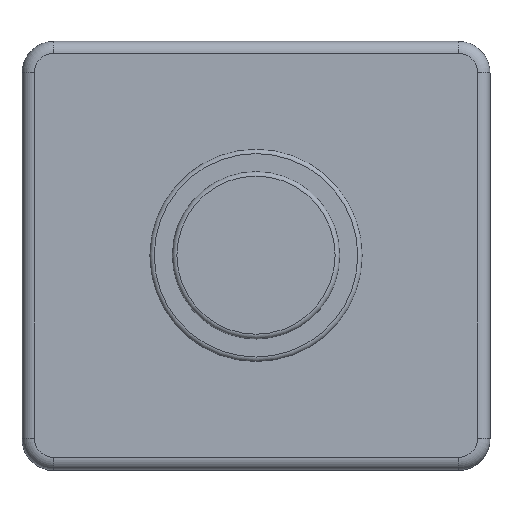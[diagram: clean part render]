
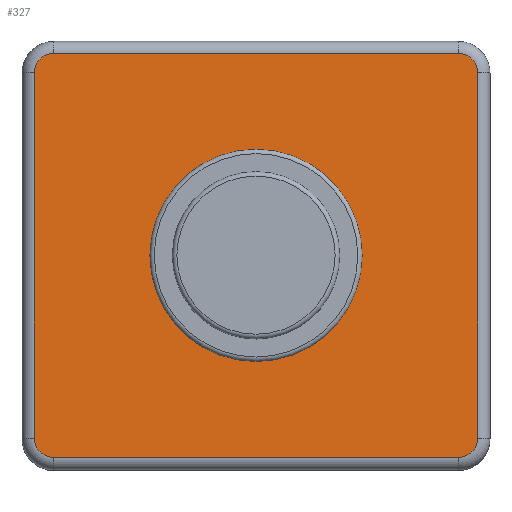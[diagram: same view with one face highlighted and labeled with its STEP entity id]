
A CAD part, top view. The second image highlights one B-rep face of the part: STEP entity #327.
In plain terms, the highlighted planar face has unit normal (0, 0.028, 1).
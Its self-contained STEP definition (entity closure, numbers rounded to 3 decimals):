
#15=FACE_BOUND('',#69,.T.);
#19=PLANE('',#380);
#46=FACE_OUTER_BOUND('',#68,.T.);
#68=EDGE_LOOP('',(#262,#263,#264,#265,#266,#267,#268,#269));
#69=EDGE_LOOP('',(#270));
#81=LINE('',#518,#99);
#82=LINE('',#529,#100);
#84=LINE('',#541,#102);
#86=LINE('',#553,#104);
#99=VECTOR('',#406,10.);
#100=VECTOR('',#419,10.);
#102=VECTOR('',#433,10.);
#104=VECTOR('',#447,10.);
#119=CIRCLE('',#356,1.266);
#123=CIRCLE('',#362,1.266);
#127=CIRCLE('',#368,1.266);
#130=CIRCLE('',#373,1.266);
#133=CIRCLE('',#381,6.911);
#140=VERTEX_POINT('',#511);
#143=VERTEX_POINT('',#516);
#145=VERTEX_POINT('',#521);
#147=VERTEX_POINT('',#527);
#149=VERTEX_POINT('',#533);
#151=VERTEX_POINT('',#539);
#153=VERTEX_POINT('',#545);
#155=VERTEX_POINT('',#551);
#161=VERTEX_POINT('',#600);
#171=EDGE_CURVE('',#143,#140,#81,.T.);
#173=EDGE_CURVE('',#145,#143,#119,.T.);
#176=EDGE_CURVE('',#147,#145,#82,.T.);
#179=EDGE_CURVE('',#149,#147,#123,.T.);
#182=EDGE_CURVE('',#151,#149,#84,.T.);
#185=EDGE_CURVE('',#153,#151,#127,.T.);
#188=EDGE_CURVE('',#155,#153,#86,.T.);
#190=EDGE_CURVE('',#140,#155,#130,.T.);
#201=EDGE_CURVE('',#161,#161,#133,.T.);
#262=ORIENTED_EDGE('',*,*,#171,.F.);
#263=ORIENTED_EDGE('',*,*,#173,.F.);
#264=ORIENTED_EDGE('',*,*,#176,.F.);
#265=ORIENTED_EDGE('',*,*,#179,.F.);
#266=ORIENTED_EDGE('',*,*,#182,.F.);
#267=ORIENTED_EDGE('',*,*,#185,.F.);
#268=ORIENTED_EDGE('',*,*,#188,.F.);
#269=ORIENTED_EDGE('',*,*,#190,.F.);
#270=ORIENTED_EDGE('',*,*,#201,.T.);
#327=ADVANCED_FACE('',(#46,#15),#19,.T.);
#356=AXIS2_PLACEMENT_3D('',#523,#411,#412);
#362=AXIS2_PLACEMENT_3D('',#535,#425,#426);
#368=AXIS2_PLACEMENT_3D('',#547,#439,#440);
#373=AXIS2_PLACEMENT_3D('',#556,#451,#452);
#380=AXIS2_PLACEMENT_3D('',#599,#471,#472);
#381=AXIS2_PLACEMENT_3D('',#601,#473,#474);
#406=DIRECTION('',(0.,-1.,0.028));
#411=DIRECTION('center_axis',(0.,-0.028,-1.));
#412=DIRECTION('ref_axis',(0.707,0.707,-0.02));
#419=DIRECTION('',(1.,0.,0.));
#425=DIRECTION('center_axis',(0.,-0.028,-1.));
#426=DIRECTION('ref_axis',(-0.707,0.707,-0.02));
#433=DIRECTION('',(0.,1.,-0.028));
#439=DIRECTION('center_axis',(0.,-0.028,-1.));
#440=DIRECTION('ref_axis',(-0.707,-0.707,0.02));
#447=DIRECTION('',(-1.,0.,0.));
#451=DIRECTION('center_axis',(0.,-0.028,-1.));
#452=DIRECTION('ref_axis',(0.707,-0.707,0.02));
#471=DIRECTION('center_axis',(0.,0.028,1.));
#472=DIRECTION('ref_axis',(1.,0.,0.));
#473=DIRECTION('center_axis',(0.,-0.028,-1.));
#474=DIRECTION('ref_axis',(1.,0.,0.));
#511=CARTESIAN_POINT('',(13615.246,10429.802,-890.005));
#516=CARTESIAN_POINT('',(13615.246,10453.6,-890.672));
#518=CARTESIAN_POINT('',(13615.246,10655.713,-896.339));
#521=CARTESIAN_POINT('',(13613.979,10454.866,-890.708));
#523=CARTESIAN_POINT('Origin',(13613.979,10453.6,-890.672));
#527=CARTESIAN_POINT('',(13587.632,10454.866,-890.708));
#529=CARTESIAN_POINT('',(13607.392,10454.866,-890.708));
#533=CARTESIAN_POINT('',(13586.366,10453.6,-890.672));
#535=CARTESIAN_POINT('Origin',(13587.632,10453.6,-890.672));
#539=CARTESIAN_POINT('',(13586.366,10429.802,-890.005));
#541=CARTESIAN_POINT('',(13586.366,10667.613,-896.672));
#545=CARTESIAN_POINT('',(13587.632,10428.536,-889.969));
#547=CARTESIAN_POINT('Origin',(13587.632,10429.802,-890.005));
#551=CARTESIAN_POINT('',(13613.979,10428.536,-889.969));
#553=CARTESIAN_POINT('',(13594.219,10428.536,-889.969));
#556=CARTESIAN_POINT('Origin',(13613.979,10429.802,-890.005));
#599=CARTESIAN_POINT('Origin',(13600.806,10881.625,-902.673));
#600=CARTESIAN_POINT('',(13600.806,10434.793,-890.145));
#601=CARTESIAN_POINT('Origin',(13600.806,10441.701,-890.339));
